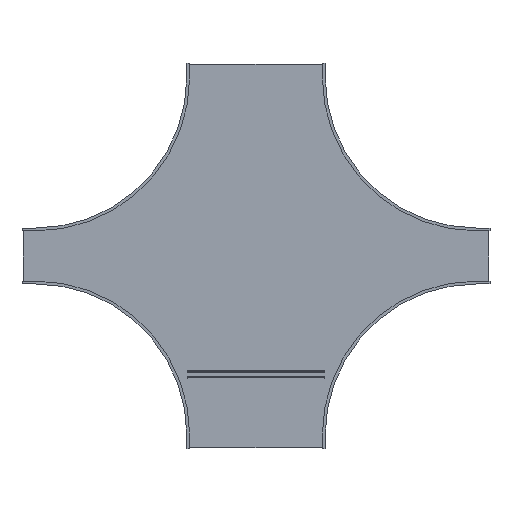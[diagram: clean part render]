
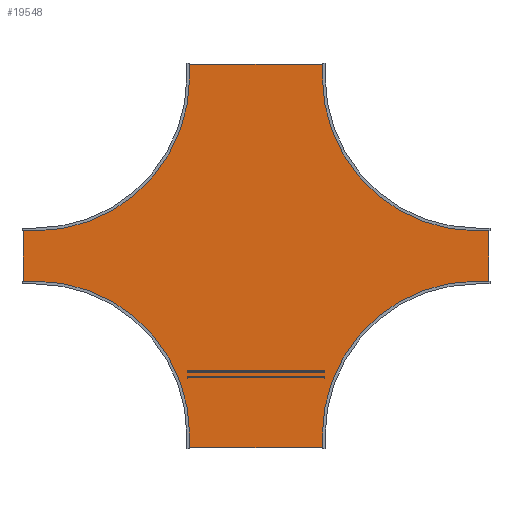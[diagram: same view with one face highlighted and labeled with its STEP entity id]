
A CAD part, front view. The second image highlights one B-rep face of the part: STEP entity #19548.
In plain terms, the highlighted planar face has unit normal (0, -1, 0).
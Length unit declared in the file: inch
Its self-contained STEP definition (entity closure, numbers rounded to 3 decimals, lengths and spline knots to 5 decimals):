
#19245=DIRECTION('',(0.,0.,1.));
#19246=VECTOR('',#19245,11.875);
#19247=CARTESIAN_POINT('',(-50.875,0.,-5.9375));
#19248=LINE('',#19247,#19246);
#19249=DIRECTION('',(1.,0.,0.));
#19250=VECTOR('',#19249,2.785);
#19251=CARTESIAN_POINT('',(-50.875,0.,5.9375));
#19252=LINE('',#19251,#19250);
#19253=CARTESIAN_POINT('',(-48.09,0.,39.09));
#19254=DIRECTION('',(0.,-1.,0.));
#19255=DIRECTION('',(0.,0.,-1.));
#19256=AXIS2_PLACEMENT_3D('',#19253,#19254,#19255);
#19258=DIRECTION('',(0.,0.,1.));
#19259=VECTOR('',#19258,2.785);
#19260=CARTESIAN_POINT('',(-14.9375,0.,39.09));
#19261=LINE('',#19260,#19259);
#19262=DIRECTION('',(1.,0.,0.));
#19263=VECTOR('',#19262,29.875);
#19264=CARTESIAN_POINT('',(-14.9375,0.,41.875));
#19265=LINE('',#19264,#19263);
#19266=DIRECTION('',(0.,0.,-1.));
#19267=VECTOR('',#19266,2.785);
#19268=CARTESIAN_POINT('',(14.9375,0.,41.875));
#19269=LINE('',#19268,#19267);
#19270=CARTESIAN_POINT('',(48.09,0.,39.09));
#19271=DIRECTION('',(0.,-1.,0.));
#19272=DIRECTION('',(-1.,0.,0.));
#19273=AXIS2_PLACEMENT_3D('',#19270,#19271,#19272);
#19275=DIRECTION('',(1.,0.,0.));
#19276=VECTOR('',#19275,2.785);
#19277=CARTESIAN_POINT('',(48.09,0.,5.9375));
#19278=LINE('',#19277,#19276);
#19279=DIRECTION('',(0.,0.,-1.));
#19280=VECTOR('',#19279,11.875);
#19281=CARTESIAN_POINT('',(50.875,0.,5.9375));
#19282=LINE('',#19281,#19280);
#19283=DIRECTION('',(-1.,0.,0.));
#19284=VECTOR('',#19283,2.785);
#19285=CARTESIAN_POINT('',(50.875,0.,-5.9375));
#19286=LINE('',#19285,#19284);
#19287=CARTESIAN_POINT('',(48.09,0.,-39.09));
#19288=DIRECTION('',(0.,-1.,0.));
#19289=DIRECTION('',(0.,0.,1.));
#19290=AXIS2_PLACEMENT_3D('',#19287,#19288,#19289);
#19292=DIRECTION('',(0.,0.,-1.));
#19293=VECTOR('',#19292,2.785);
#19294=CARTESIAN_POINT('',(14.9375,0.,-39.09));
#19295=LINE('',#19294,#19293);
#19296=DIRECTION('',(-1.,0.,0.));
#19297=VECTOR('',#19296,29.875);
#19298=CARTESIAN_POINT('',(14.9375,0.,-41.875));
#19299=LINE('',#19298,#19297);
#19300=DIRECTION('',(0.,0.,1.));
#19301=VECTOR('',#19300,2.785);
#19302=CARTESIAN_POINT('',(-14.9375,0.,-41.875));
#19303=LINE('',#19302,#19301);
#19304=CARTESIAN_POINT('',(-48.09,0.,-39.09));
#19305=DIRECTION('',(0.,-1.,0.));
#19306=DIRECTION('',(1.,0.,0.));
#19307=AXIS2_PLACEMENT_3D('',#19304,#19305,#19306);
#19309=DIRECTION('',(-1.,0.,0.));
#19310=VECTOR('',#19309,2.785);
#19311=CARTESIAN_POINT('',(-48.09,0.,-5.9375));
#19312=LINE('',#19311,#19310);
#19445=CARTESIAN_POINT('',(-50.875,0.,-5.9375));
#19446=CARTESIAN_POINT('',(-50.875,0.,5.9375));
#19447=VERTEX_POINT('',#19445);
#19448=VERTEX_POINT('',#19446);
#19449=CARTESIAN_POINT('',(-48.09,0.,5.9375));
#19450=VERTEX_POINT('',#19449);
#19451=CARTESIAN_POINT('',(-14.9375,0.,39.09));
#19452=VERTEX_POINT('',#19451);
#19453=CARTESIAN_POINT('',(-14.9375,0.,41.875));
#19454=VERTEX_POINT('',#19453);
#19455=CARTESIAN_POINT('',(14.9375,0.,41.875));
#19456=VERTEX_POINT('',#19455);
#19457=CARTESIAN_POINT('',(14.9375,0.,39.09));
#19458=VERTEX_POINT('',#19457);
#19459=CARTESIAN_POINT('',(48.09,0.,5.9375));
#19460=VERTEX_POINT('',#19459);
#19461=CARTESIAN_POINT('',(50.875,0.,5.9375));
#19462=VERTEX_POINT('',#19461);
#19463=CARTESIAN_POINT('',(50.875,0.,-5.9375));
#19464=VERTEX_POINT('',#19463);
#19465=CARTESIAN_POINT('',(48.09,0.,-5.9375));
#19466=VERTEX_POINT('',#19465);
#19467=CARTESIAN_POINT('',(14.9375,0.,-39.09));
#19468=VERTEX_POINT('',#19467);
#19469=CARTESIAN_POINT('',(14.9375,0.,-41.875));
#19470=VERTEX_POINT('',#19469);
#19471=CARTESIAN_POINT('',(-14.9375,0.,-41.875));
#19472=VERTEX_POINT('',#19471);
#19473=CARTESIAN_POINT('',(-14.9375,0.,-39.09));
#19474=VERTEX_POINT('',#19473);
#19475=CARTESIAN_POINT('',(-48.09,0.,-5.9375));
#19476=VERTEX_POINT('',#19475);
#19509=CARTESIAN_POINT('',(0.,0.,0.));
#19510=DIRECTION('',(0.,1.,0.));
#19511=DIRECTION('',(1.,0.,0.));
#19512=AXIS2_PLACEMENT_3D('',#19509,#19510,#19511);
#19513=PLANE('',#19512);
#19515=ORIENTED_EDGE('',*,*,#19514,.T.);
#19517=ORIENTED_EDGE('',*,*,#19516,.T.);
#19519=ORIENTED_EDGE('',*,*,#19518,.T.);
#19521=ORIENTED_EDGE('',*,*,#19520,.T.);
#19523=ORIENTED_EDGE('',*,*,#19522,.T.);
#19525=ORIENTED_EDGE('',*,*,#19524,.T.);
#19527=ORIENTED_EDGE('',*,*,#19526,.T.);
#19529=ORIENTED_EDGE('',*,*,#19528,.T.);
#19531=ORIENTED_EDGE('',*,*,#19530,.T.);
#19533=ORIENTED_EDGE('',*,*,#19532,.T.);
#19535=ORIENTED_EDGE('',*,*,#19534,.T.);
#19537=ORIENTED_EDGE('',*,*,#19536,.T.);
#19539=ORIENTED_EDGE('',*,*,#19538,.T.);
#19541=ORIENTED_EDGE('',*,*,#19540,.T.);
#19543=ORIENTED_EDGE('',*,*,#19542,.T.);
#19545=ORIENTED_EDGE('',*,*,#19544,.T.);
#19546=EDGE_LOOP('',(#19515,#19517,#19519,#19521,#19523,#19525,#19527,#19529,
#19531,#19533,#19535,#19537,#19539,#19541,#19543,#19545));
#19547=FACE_OUTER_BOUND('',#19546,.F.);
#19548=ADVANCED_FACE('',(#19547),#19513,.F.);
#19257=CIRCLE('',#19256,33.1525);
#19274=CIRCLE('',#19273,33.1525);
#19291=CIRCLE('',#19290,33.1525);
#19308=CIRCLE('',#19307,33.1525);
#19514=EDGE_CURVE('',#19447,#19448,#19248,.T.);
#19516=EDGE_CURVE('',#19448,#19450,#19252,.T.);
#19518=EDGE_CURVE('',#19450,#19452,#19257,.T.);
#19520=EDGE_CURVE('',#19452,#19454,#19261,.T.);
#19522=EDGE_CURVE('',#19454,#19456,#19265,.T.);
#19524=EDGE_CURVE('',#19456,#19458,#19269,.T.);
#19526=EDGE_CURVE('',#19458,#19460,#19274,.T.);
#19528=EDGE_CURVE('',#19460,#19462,#19278,.T.);
#19530=EDGE_CURVE('',#19462,#19464,#19282,.T.);
#19532=EDGE_CURVE('',#19464,#19466,#19286,.T.);
#19534=EDGE_CURVE('',#19466,#19468,#19291,.T.);
#19536=EDGE_CURVE('',#19468,#19470,#19295,.T.);
#19538=EDGE_CURVE('',#19470,#19472,#19299,.T.);
#19540=EDGE_CURVE('',#19472,#19474,#19303,.T.);
#19542=EDGE_CURVE('',#19474,#19476,#19308,.T.);
#19544=EDGE_CURVE('',#19476,#19447,#19312,.T.);
